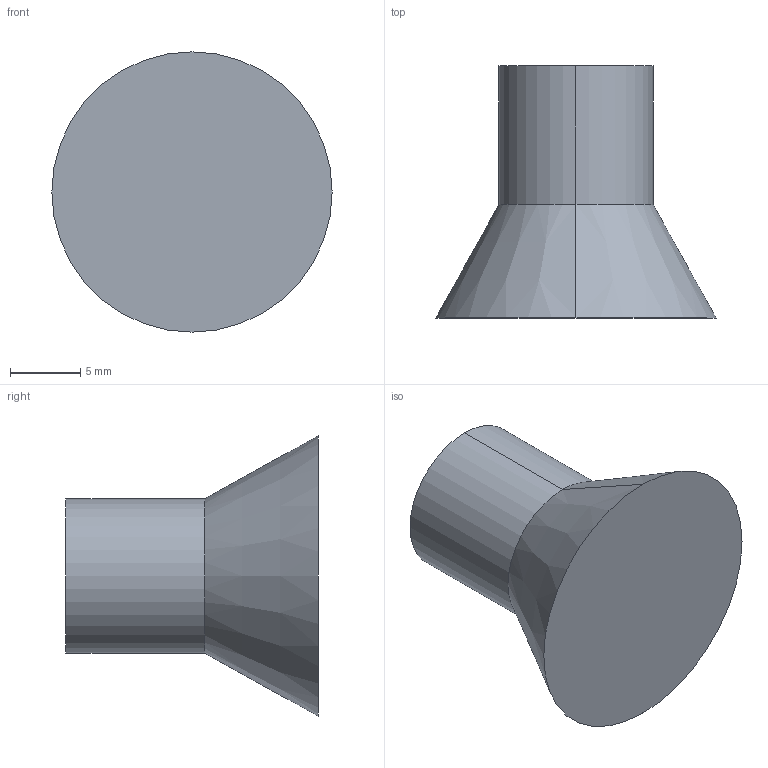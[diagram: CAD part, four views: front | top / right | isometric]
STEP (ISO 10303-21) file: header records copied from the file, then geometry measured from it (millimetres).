
FILE_DESCRIPTION( ( '' ), '1' );
FILE_NAME( 'C:/Documents and Settings/Nikhil/Desktop/Nik/Done/9070744.stp', '2013-10-24T04:11:20', ( '' ), ( '' ), ' ', ' ', ' ' );
FILE_SCHEMA( ( 'automotive_design' ) );
Length unit declared in the file: millimetre
Products named in the file (1): 1
Bounding box: 20 x 18 x 20 mm (x, y, z)
Volume: 2374.7 mm3; surface area: 1312.5 mm2
Topology: 1 solids, 1 shells, 9 faces, 16 edges, 10 vertices
Faces by surface type: cylinder 4, plane 3, cone 2
Entity records: 450 total; most frequent: DIRECTION 46, STYLED_ITEM 36, PRESENTATION_STYLE_ASSIGNMENT 36, CARTESIAN_POINT 36, COLOUR_RGB 36, ORIENTED_EDGE 32, AXIS2_PLACEMENT_3D 20, EDGE_CURVE 16
